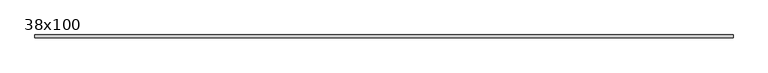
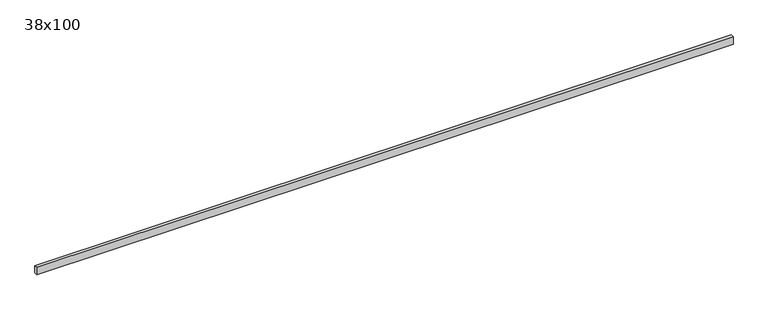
"""IFC4 building model written with IfcOpenShell, lengths in millimetres: beam geometry, Poutre - Bois de construction de dimensions courantes : 38x100."""

from ifc_helpers import new_model, si_unit, frame, origin, place, context, project, spatial, polyline, outline, extrude, source, transform, mapped, element, save


def beam_38x100_48bbc0b1(model_context):
    return source(origin(), model_context, "Body", "SweptSolid", [
        extrude(outline(polyline([(4389.0, 19.05), (4389.0, -19.05), (-4460.0, -19.05), (-4460.0, 19.05), (4389.0, 19.05)])), frame((0.0, 0.0, -50.0), z_axis=(0.0, 0.0, 1.0), x_axis=(1.0, 0.0, 0.0)), (0.0, 0.0, 1.0), 100.0),
    ])


if __name__ == "__main__":
    model = new_model("IFC4")
    model_context = context("Model", 3, world=origin())
    ifc_project = project(units=[si_unit("LENGTHUNIT", "METRE", prefix="MILLI")], contexts=[model_context])
    site = spatial("IfcSite", under=ifc_project)
    building = spatial("IfcBuilding", under=site)
    placement = place(None, origin())
    beam_38x100_shape = beam_38x100_48bbc0b1(model_context)
    element("IfcBeam", 1, ObjectType="Poutre - Bois de construction de dimensions courantes : 38x100", at=placement, inside=building, context=model_context, shape_type="MappedRepresentation", body=[
        mapped(beam_38x100_shape, transform((0.0, 0.0, 0.0), x_axis=(1.0, 0.0, 0.0), y_axis=(0.0, 1.0, 0.0), z_axis=(0.0, 0.0, 1.0))),
    ])
    save(model, "model.ifc")
